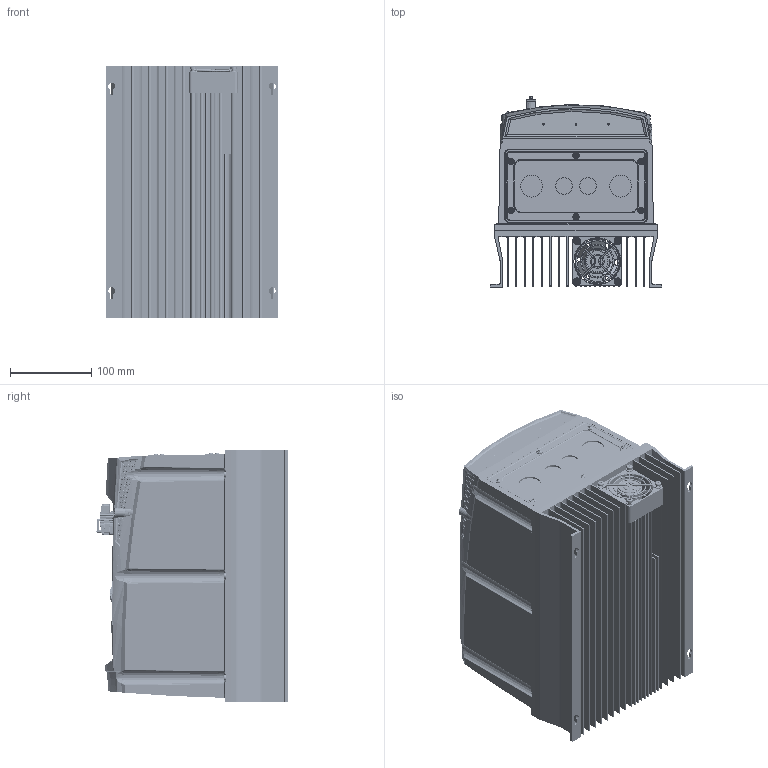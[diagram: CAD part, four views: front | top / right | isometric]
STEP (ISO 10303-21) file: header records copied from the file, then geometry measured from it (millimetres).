
FILE_DESCRIPTION (( 'STEP AP203' ), '1' );
FILE_NAME ('P2.IP66.Gen2.SIZE3.OLED.Switched-Closed (ENVELOPE) (4-Hole).STEP', '2022-08-04T09:47:38', ( '' ), ( '' ), 'SwSTEP 2.0', 'SolidWorks 2022', '' );
FILE_SCHEMA (( 'CONFIG_CONTROL_DESIGN' ));
Length unit declared in the file: millimetre
Products named in the file (1): P2.IP66.Gen2.SIZE3.OLED.Switched-Closed (ENVELOPE) (4-Hole)
Bounding box: 210.5 x 235.08 x 310.09 mm (x, y, z)
Volume: 9139080.2 mm3; surface area: 1153984.6 mm2
Topology: 1 solids, 27 shells, 4920 faces, 13916 edges, 8925 vertices
Faces by surface type: cylinder 1211, plane 1150, bspline 976, sphere 890, cone 479, torus 214
Entity records: 200389 total; most frequent: CARTESIAN_POINT 91201, ORIENTED_EDGE 25080, DIRECTION 19863, EDGE_CURVE 12540, AXIS2_PLACEMENT_3D 8269, VERTEX_POINT 8111, EDGE_LOOP 5459, FACE_OUTER_BOUND 4907
